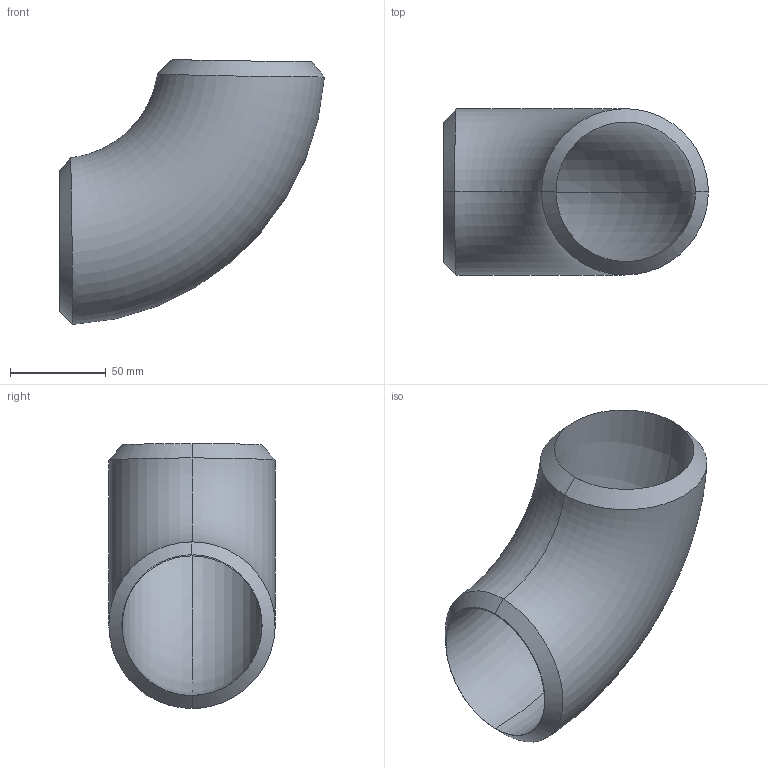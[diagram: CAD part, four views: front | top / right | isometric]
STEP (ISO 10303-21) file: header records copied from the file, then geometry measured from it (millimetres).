
FILE_DESCRIPTION (( 'STEP AP203' ), '1' );
FILE_NAME ('3D_R2651_2 1-2X80S_173421162_173425162.STEP', '2024-08-22T09:01:49', ( '' ), ( '' ), 'SwSTEP 2.0', 'SolidWorks 2024', '' );
FILE_SCHEMA (( 'CONFIG_CONTROL_DESIGN' ));
Length unit declared in the file: millimetre
Products named in the file (1): 3D_R2651_2 1-2X80S_173421162_173425162
Bounding box: 138.51 x 87.02 x 138.64 mm (x, y, z)
Volume: 248303.5 mm3; surface area: 75857 mm2
Topology: 1 solids, 1 shells, 10 faces, 24 edges, 15 vertices
Faces by surface type: bspline 4, torus 4, plane 2
Entity records: 3252 total; most frequent: CARTESIAN_POINT 2973, ORIENTED_EDGE 48, DIRECTION 30, EDGE_CURVE 24, B_SPLINE_CURVE_WITH_KNOTS 16, AXIS2_PLACEMENT_3D 15, VERTEX_POINT 15, EDGE_LOOP 11
